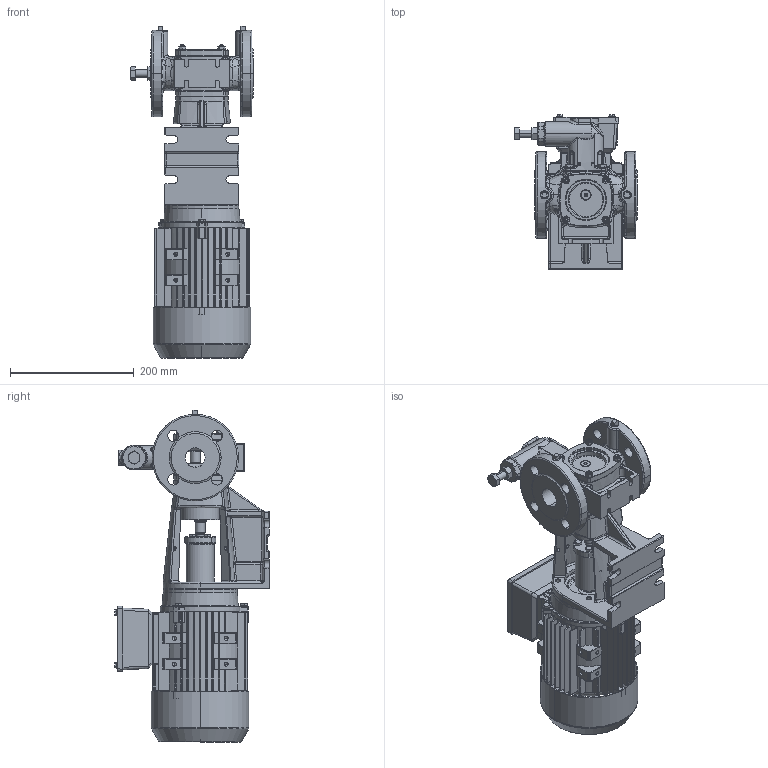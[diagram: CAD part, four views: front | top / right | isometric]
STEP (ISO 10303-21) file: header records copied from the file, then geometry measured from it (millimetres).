
FILE_DESCRIPTION((''),'2;1');
FILE_NAME('GP33EF-GB1H1D11_ASM','2020-07-01T',('heqi'),(''),'PRO/ENGINEER BY PARAMETRIC TECHNOLOGY CORPORATION, 2017170','PRO/ENGINEER BY PARAMETRIC TECHNOLOGY CORPORATION, 2017170','');
FILE_SCHEMA(('CONFIG_CONTROL_DESIGN'));
Products named in the file (46): 1033-001EA225; 0030-072JA904; 0031-070AA904; 704000; 700298; 1033-001XA018_ASM; 1033-002AA225; 1033-021CA803; 1033-002XA021_ASM; 1026-003CE225; 3213-020CA000; 700937; 3425-020DA000; 1026-003XA028_ASM; 1026-020DA050; 1033-004XA002_ASM; 3008-090GA081; 760288; 1033-033XA001_AF2_ASM; 0050-120AA225; 0016-019BE200; 0025-012CA050; 701687; 702001; 702365; 700299; 709355; 700300; 1026-010XA032_ASM; 0051-024CA225; 2348578; 1022-042AA200; 1022-046AA081; 1022-045AA030; 1026-043AA070_AF0; 1022-036AA904; 1022-049AB020; 760279; 8302-BYPASS_ASM; UTTAGSL_S_EDA_4A_80_M20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
Assembly tree (61 placements, depth 4):
  GP33EF-GB1H1D11_ASM
    1033-001XA018_ASM
      1033-001EA225
      0030-072JA904  x2
      0031-070AA904
      704000  x2
      700298  x4
    1033-002XA021_ASM
      1033-002AA225
      1033-021CA803
    1026-003XA028_ASM
      1026-003CE225
      3213-020CA000
      700937
      3425-020DA000
    1033-004XA002_ASM
      1026-020DA050
    1033-033XA001_AF2_ASM
      3008-090GA081  x4
      760288  x4
    1026-010XA032_ASM
      0050-120AA225
      0016-019BE200
      0025-012CA050
      701687  x2
      702001
      702365
      700299  x2
      709355  x2
      700300  x2
    8302-BYPASS_ASM
      0051-024CA225
      2348578  x2
      1022-042AA200
      1022-046AA081
      1022-045AA030
      1026-043AA070_AF0
      1022-036AA904
      1022-049AB020
      760279
    4A_80-2-4-B14A_BEVI_ASM
      ASM0001_ASM
        UTTAGSL_S_EDA_4A_80_M20
        BODY_4A_80
        FL_S_DKTK_S_EPA_4A_80
        FL_S_DNS_4A_80_B14A
Bounding box: 198 x 250.5 x 537.6 mm (x, y, z)
Volume: 5178029.6 mm3; surface area: 894319.5 mm2
Topology: 62 solids, 63 shells, 3708 faces, 9327 edges, 5721 vertices
Faces by surface type: plane 1433, cylinder 921, bspline 555, cone 528, torus 201, sphere 69, revolution 1
Entity records: 146577 total; most frequent: CARTESIAN_POINT 65010, ORIENTED_EDGE 17404, DIRECTION 15990, EDGE_CURVE 8702, AXIS2_PLACEMENT_3D 5884, VERTEX_POINT 5419, VECTOR 4221, LINE 4221
